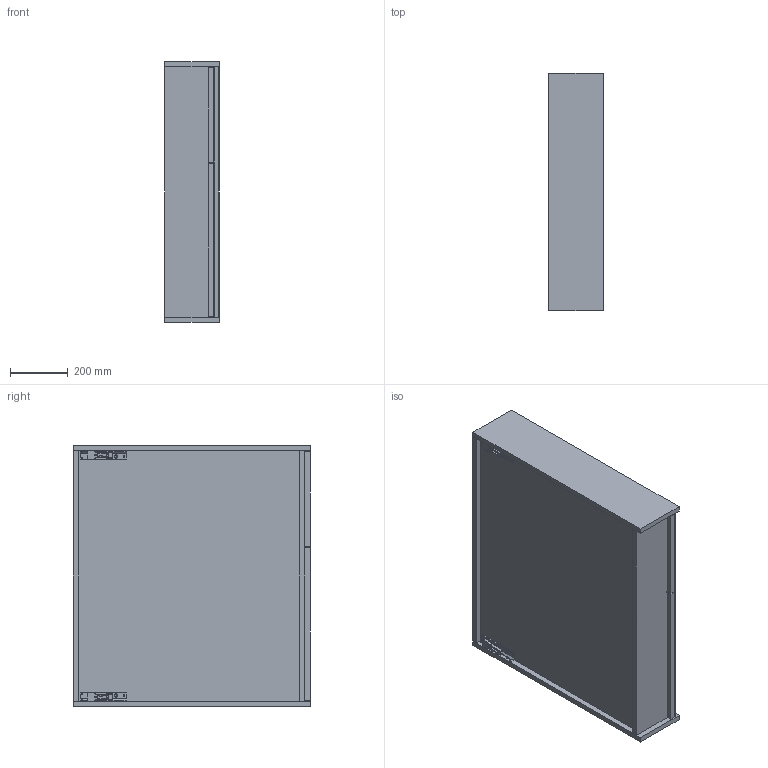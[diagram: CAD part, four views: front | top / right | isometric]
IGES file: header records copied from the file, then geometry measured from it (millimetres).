
Global section: file name: Meta Dolaplı Ayna 3D ,; native system: Autodesk Inventor 2024; preprocessor: unknown; author: pc19; date: 20240613.174401; units: millimetre
Bounding box: 188 x 818 x 900 mm (x, y, z)
Volume: 30380842.8 mm3; surface area: 6323718.9 mm2
Topology: 48 solids, 52 shells, 2546 faces, 6997 edges, 4647 vertices
Faces by surface type: bspline 2546
